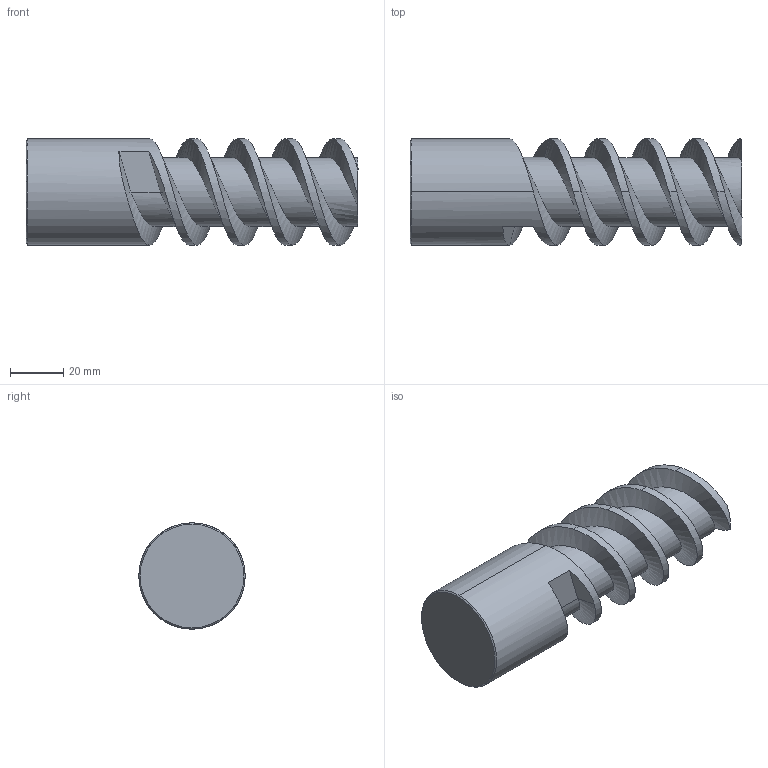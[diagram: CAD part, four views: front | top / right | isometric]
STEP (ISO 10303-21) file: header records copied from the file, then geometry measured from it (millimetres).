
FILE_DESCRIPTION (( 'STEP AP214' ), '1' );
FILE_NAME ('E2122_40_125.STEP', '2013-04-10T07:11:26', ( '' ), ( '' ), 'SwSTEP 2.0', 'SolidWorks 2013', '' );
FILE_SCHEMA (( 'AUTOMOTIVE_DESIGN' ));
Length unit declared in the file: millimetre
Products named in the file (1): E2122_40_125
Bounding box: 125 x 40 x 40 mm (x, y, z)
Volume: 112397.5 mm3; surface area: 20591 mm2
Topology: 1 solids, 1 shells, 26 faces, 66 edges, 42 vertices
Faces by surface type: cylinder 10, plane 8, bspline 6, cone 2
Entity records: 5958 total; most frequent: CARTESIAN_POINT 5131, ORIENTED_EDGE 132, DIRECTION 78, EDGE_CURVE 66, VERTEX_POINT 42, UNCERTAINTY_MEASURE_WITH_UNIT 29, PRESENTATION_STYLE_ASSIGNMENT 28, SURFACE_STYLE_FILL_AREA 28
